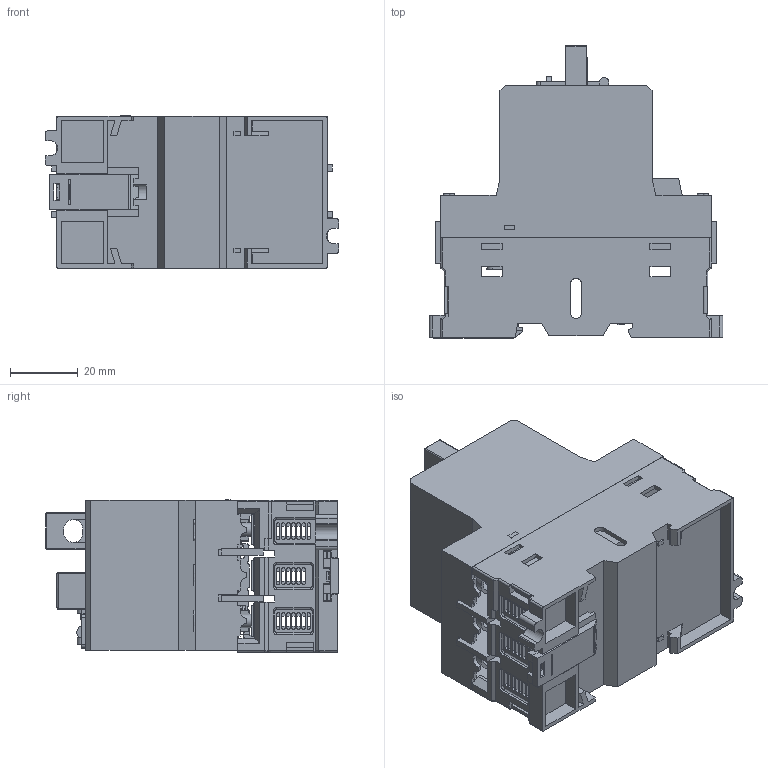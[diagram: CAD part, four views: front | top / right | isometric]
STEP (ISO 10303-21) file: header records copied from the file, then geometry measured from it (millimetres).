
FILE_DESCRIPTION((''),'2; 1');
FILE_NAME('','2026-03-27T11:19:41',(''),(''),'CST STEP Exporter V1.0','Unknown','');
FILE_SCHEMA(('CONFIG_CONTROL_DESIGN'));
Length unit declared in the file: metre
Assembly tree (35 placements, depth 2):
  (unnamed)
    (unnamed)
    (unnamed)
    (unnamed)
    (unnamed)
    (unnamed)
    (unnamed)
    (unnamed)
    (unnamed)
    (unnamed)
    (unnamed)
    (unnamed)
    (unnamed)
    (unnamed)
    (unnamed)
    (unnamed)
    (unnamed)
    (unnamed)
    (unnamed)
    (unnamed)
    (unnamed)
    (unnamed)
    (unnamed)
    (unnamed)
    (unnamed)
    (unnamed)
    (unnamed)
    (unnamed)
    (unnamed)
    (unnamed)
    (unnamed)
    (unnamed)
    (unnamed)
    (unnamed)
    (unnamed)
    (unnamed)
Bounding box: 87 x 86.49 x 45.1 mm (x, y, z)
Surface area: 109960.5 mm2 (no closed solid volume)
Topology: 0 solids, 35 shells, 990 faces, 4041 edges, 2982 vertices
Faces by surface type: plane 694, cylinder 240, extrusion 31, torus 20, sphere 4, bspline 1
Full cylindrical faces by diameter (mm): 2 x1, 3.2 x1, 3.5 x2, 4 x4, 4.8 x1, 7.5 x6, 9.5 x6
Entity records: 51993 total; most frequent: CARTESIAN_POINT 11338, ORIENTED_EDGE 6294, DIRECTION 6132, EDGE_CURVE 4004, VERTEX_POINT 2973, VECTOR 2936, LINE 2905, AXIS2_PLACEMENT_3D 1598
